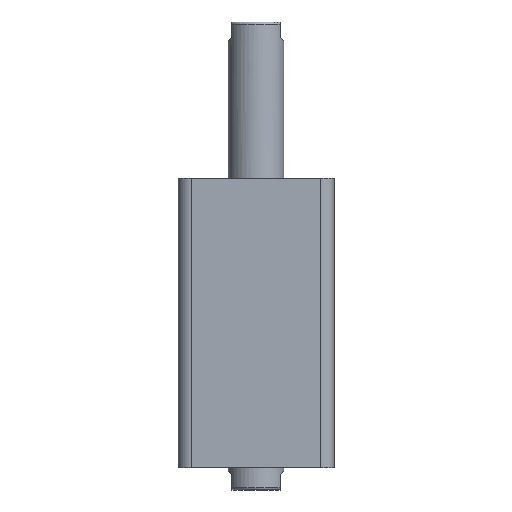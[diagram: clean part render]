
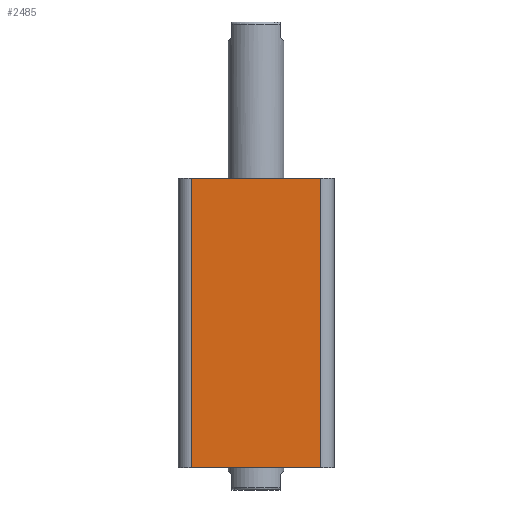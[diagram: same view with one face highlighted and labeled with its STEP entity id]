
A CAD part, front view. The second image highlights one B-rep face of the part: STEP entity #2485.
In plain terms, the highlighted planar face has unit normal (0, -1, 0).
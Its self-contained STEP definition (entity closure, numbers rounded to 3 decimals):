
#161 = VERTEX_POINT ( 'NONE', #601 ) ;
#162 = VERTEX_POINT ( 'NONE', #602 ) ;
#163 = VERTEX_POINT ( 'NONE', #603 ) ;
#601 = CARTESIAN_POINT ( 'NONE',  ( 29., -35., 0. ) ) ;
#602 = CARTESIAN_POINT ( 'NONE',  ( -29., -35., 0. ) ) ;
#603 = CARTESIAN_POINT ( 'NONE',  ( 29., -35., 130. ) ) ;
#989 = EDGE_CURVE ( 'NONE', #3048, #163, #2666, .T. ) ;
#990 = EDGE_CURVE ( 'NONE', #3048, #162, #2668, .T. ) ;
#991 = EDGE_CURVE ( 'NONE', #162, #161, #2658, .T. ) ;
#992 = EDGE_CURVE ( 'NONE', #161, #163, #2672, .T. ) ;
#1224 = AXIS2_PLACEMENT_3D ( 'NONE', #1374, #1378, #1379 ) ;
#1374 = CARTESIAN_POINT ( 'NONE',  ( -35., -35., 130. ) ) ;
#1376 = PLANE ( 'NONE',  #1224 ) ;
#1378 = DIRECTION ( 'NONE',  ( 0., 1., 0. ) ) ;
#1379 = DIRECTION ( 'NONE',  ( 0., 0., 1. ) ) ;
#1553 = CARTESIAN_POINT ( 'NONE',  ( -29., -35., 130. ) ) ;
#1783 = CARTESIAN_POINT ( 'NONE',  ( -35., -35., 0. ) ) ;
#1793 = CARTESIAN_POINT ( 'NONE',  ( -35., -35., 130. ) ) ;
#1794 = DIRECTION ( 'NONE',  ( 1., 0., 0. ) ) ;
#1795 = CARTESIAN_POINT ( 'NONE',  ( -29., -35., 130. ) ) ;
#1796 = DIRECTION ( 'NONE',  ( 0., 0., -1. ) ) ;
#1797 = DIRECTION ( 'NONE',  ( 1., 0., 0. ) ) ;
#1798 = CARTESIAN_POINT ( 'NONE',  ( 29., -35., 130. ) ) ;
#1799 = DIRECTION ( 'NONE',  ( 0., 0., 1. ) ) ;
#2485 = ADVANCED_FACE ( 'NONE', ( #2837 ), #1376, .F. ) ;
#2658 = LINE ( 'NONE', #1783, #2673 ) ;
#2666 = LINE ( 'NONE', #1793, #2669 ) ;
#2668 = LINE ( 'NONE', #1795, #2671 ) ;
#2669 = VECTOR ( 'NONE', #1794, 1000. ) ;
#2671 = VECTOR ( 'NONE', #1796, 1000. ) ;
#2672 = LINE ( 'NONE', #1798, #2675 ) ;
#2673 = VECTOR ( 'NONE', #1797, 1000. ) ;
#2675 = VECTOR ( 'NONE', #1799, 1000. ) ;
#2837 = FACE_OUTER_BOUND ( 'NONE', #3252, .T. ) ;
#3048 = VERTEX_POINT ( 'NONE', #1553 ) ;
#3182 = ORIENTED_EDGE ( 'NONE', *, *, #989, .F. ) ;
#3183 = ORIENTED_EDGE ( 'NONE', *, *, #990, .T. ) ;
#3184 = ORIENTED_EDGE ( 'NONE', *, *, #991, .T. ) ;
#3185 = ORIENTED_EDGE ( 'NONE', *, *, #992, .T. ) ;
#3252 = EDGE_LOOP ( 'NONE', ( #3182, #3183, #3184, #3185 ) ) ;
